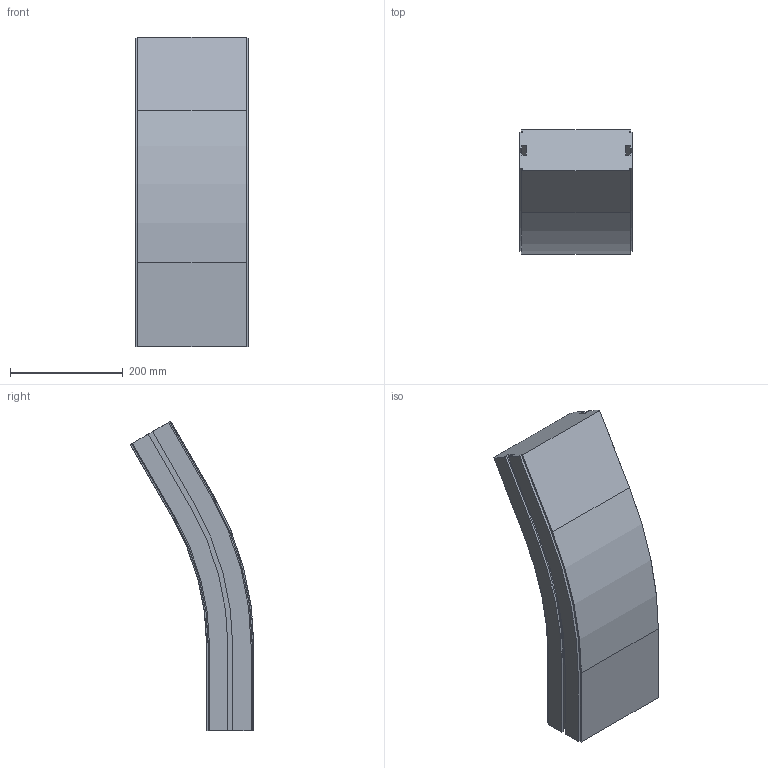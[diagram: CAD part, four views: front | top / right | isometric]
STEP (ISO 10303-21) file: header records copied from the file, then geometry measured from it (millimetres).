
FILE_DESCRIPTION (( 'STEP AP214' ), '1' );
FILE_NAME ('CS SL Verticaalbocht.200 30°.STEP', '2017-02-08T07:37:38', ( '' ), ( '' ), 'SwSTEP 2.0', 'SolidWorks 2016', '' );
FILE_SCHEMA (( 'AUTOMOTIVE_DESIGN' ));
Length unit declared in the file: millimetre
Products named in the file (1): CS SL Verticaalbocht.200 30°
Bounding box: 200 x 220.36 x 550.9 mm (x, y, z)
Volume: 9193639.1 mm3; surface area: 411359.5 mm2
Topology: 1 solids, 1 shells, 98 faces, 272 edges, 176 vertices
Faces by surface type: plane 72, cylinder 18, cone 8
Entity records: 3126 total; most frequent: CARTESIAN_POINT 547, ORIENTED_EDGE 544, DIRECTION 514, EDGE_CURVE 272, LINE 228, VECTOR 228, VERTEX_POINT 176, AXIS2_PLACEMENT_3D 143
